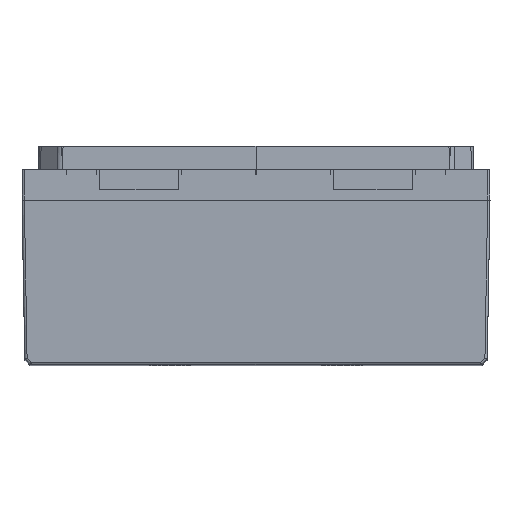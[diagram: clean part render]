
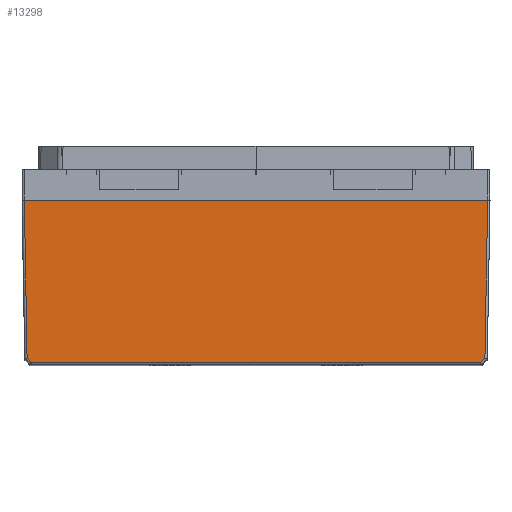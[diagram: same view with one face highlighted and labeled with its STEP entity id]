
A CAD part, top view. The second image highlights one B-rep face of the part: STEP entity #13298.
In plain terms, the highlighted planar face has unit normal (0, -0.018, 1).
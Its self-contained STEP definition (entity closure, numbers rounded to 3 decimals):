
#546 = VERTEX_POINT ( 'NONE', #33293 ) ;
#1081 = CARTESIAN_POINT ( 'NONE',  ( 293.48, -201.664, 396.48 ) ) ;
#2647 = FACE_OUTER_BOUND ( 'NONE', #5728, .T. ) ;
#2742 = ORIENTED_EDGE ( 'NONE', *, *, #9775, .T. ) ;
#3293 = ORIENTED_EDGE ( 'NONE', *, *, #20029, .T. ) ;
#4025 = PLANE ( 'NONE',  #34239 ) ;
#4278 = DIRECTION ( 'NONE',  ( 0.707, -0.707, -0.012 ) ) ;
#4768 = EDGE_CURVE ( 'NONE', #23313, #22044, #28695, .T. ) ;
#4925 = ORIENTED_EDGE ( 'NONE', *, *, #26219, .T. ) ;
#5728 = EDGE_LOOP ( 'NONE', ( #4925, #3293, #12780, #26792, #36044, #2742 ) ) ;
#6027 = LINE ( 'NONE', #30535, #24572 ) ;
#8498 = DIRECTION ( 'NONE',  ( 0.707, 0.707, 0.012 ) ) ;
#9197 = CARTESIAN_POINT ( 'NONE',  ( -288.092, -207.052, 396.386 ) ) ;
#9775 = EDGE_CURVE ( 'NONE', #39675, #20761, #35711, .T. ) ;
#12333 = CARTESIAN_POINT ( 'NONE',  ( 297., 0., 400. ) ) ;
#12780 = ORIENTED_EDGE ( 'NONE', *, *, #33135, .T. ) ;
#12956 = VECTOR ( 'NONE', #8498, 1000. ) ;
#13298 = ADVANCED_FACE ( 'NONE', ( #2647 ), #4025, .T. ) ;
#14534 = CARTESIAN_POINT ( 'NONE',  ( -300., 0., 400. ) ) ;
#15143 = VECTOR ( 'NONE', #26427, 1000. ) ;
#17144 = VERTEX_POINT ( 'NONE', #1081 ) ;
#17587 = DIRECTION ( 'NONE',  ( 0., -1., -0.017 ) ) ;
#17826 = DIRECTION ( 'NONE',  ( 1., 0., 0. ) ) ;
#19444 = VECTOR ( 'NONE', #17826, 1000. ) ;
#20029 = EDGE_CURVE ( 'NONE', #546, #17144, #35881, .T. ) ;
#20761 = VERTEX_POINT ( 'NONE', #9197 ) ;
#21630 = CARTESIAN_POINT ( 'NONE',  ( -397.587, -97.557, 398.297 ) ) ;
#22044 = VERTEX_POINT ( 'NONE', #12333 ) ;
#22147 = VECTOR ( 'NONE', #42254, 1000. ) ;
#23313 = VERTEX_POINT ( 'NONE', #34265 ) ;
#24572 = VECTOR ( 'NONE', #44061, 1000. ) ;
#26219 = EDGE_CURVE ( 'NONE', #20761, #546, #41834, .T. ) ;
#26379 = VECTOR ( 'NONE', #4278, 1000. ) ;
#26427 = DIRECTION ( 'NONE',  ( 1., 0., 0. ) ) ;
#26483 = LINE ( 'NONE', #35586, #22147 ) ;
#26792 = ORIENTED_EDGE ( 'NONE', *, *, #4768, .F. ) ;
#28695 = LINE ( 'NONE', #39020, #19444 ) ;
#29820 = CARTESIAN_POINT ( 'NONE',  ( -293.48, -201.664, 396.48 ) ) ;
#30535 = CARTESIAN_POINT ( 'NONE',  ( 296.819, -10.414, 399.818 ) ) ;
#31906 = DIRECTION ( 'NONE',  ( 0., -0.017, 1. ) ) ;
#33135 = EDGE_CURVE ( 'NONE', #17144, #22044, #6027, .T. ) ;
#33293 = CARTESIAN_POINT ( 'NONE',  ( 288.092, -207.052, 396.386 ) ) ;
#34239 = AXIS2_PLACEMENT_3D ( 'NONE', #14534, #31906, #17587 ) ;
#34265 = CARTESIAN_POINT ( 'NONE',  ( -297., 0., 400. ) ) ;
#35586 = CARTESIAN_POINT ( 'NONE',  ( -297.001, 0.052, 400.001 ) ) ;
#35711 = LINE ( 'NONE', #21630, #26379 ) ;
#35881 = LINE ( 'NONE', #43352, #12956 ) ;
#36044 = ORIENTED_EDGE ( 'NONE', *, *, #39889, .T. ) ;
#39020 = CARTESIAN_POINT ( 'NONE',  ( -300., 0., 400. ) ) ;
#39675 = VERTEX_POINT ( 'NONE', #29820 ) ;
#39889 = EDGE_CURVE ( 'NONE', #23313, #39675, #26483, .T. ) ;
#40185 = CARTESIAN_POINT ( 'NONE',  ( 289.334, -207.052, 396.386 ) ) ;
#41834 = LINE ( 'NONE', #40185, #15143 ) ;
#42254 = DIRECTION ( 'NONE',  ( 0.017, -1., -0.017 ) ) ;
#43352 = CARTESIAN_POINT ( 'NONE',  ( 97.633, -397.512, 393.061 ) ) ;
#44061 = DIRECTION ( 'NONE',  ( 0.017, 1., 0.017 ) ) ;
